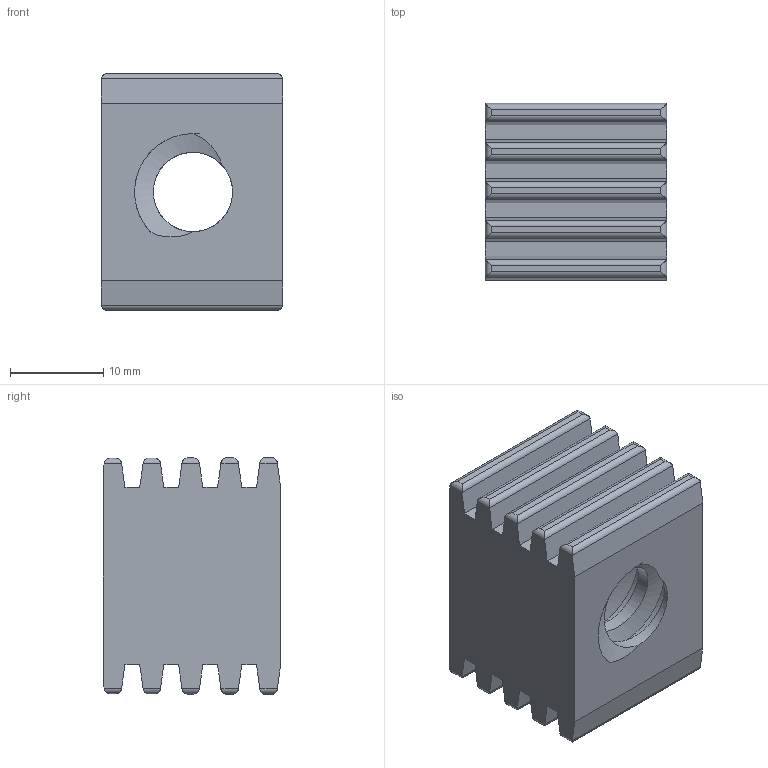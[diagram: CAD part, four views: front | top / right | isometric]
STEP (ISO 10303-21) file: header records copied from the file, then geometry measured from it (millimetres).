
FILE_DESCRIPTION(/* description */ ('STEP AP242 Edition 2','CAx-IF Rec.Pracs.---Representation and Presentation of Product Manufacturing Information (PMI)---4.0---2014-10-13','CAx-IF Rec.Pracs.---3D Tessellated Geometry---0.4---2014-09-14','2;1','CAx-IF Rec.Pracs.---User Defined Attributes---1.5---2016-08-15'),/* implementation_level */ '2;1');
FILE_NAME(/* name */ 'Assembly 1 - Rack',/* time_stamp */ '2026-08-25T12:54:11Z',/* author */ (''),/* organization */ (''),/* preprocessor_version */ 'ST-DEVELOPER v20',/* originating_system */ 'ONSHAPE BY PTC INC, 1.219',/* authorisation */ ' ');
FILE_SCHEMA (('AP242_MANAGED_MODEL_BASED_3D_ENGINEERING_MIM_LF { 1 0 10303 442 3 1 4 }'));
Length unit declared in the file: metre
Products named in the file (1): Rack
Bounding box: 19.4 x 19 x 25.34 mm (x, y, z)
Volume: 6586.7 mm3; surface area: 4249.7 mm2
Topology: 1 solids, 1 shells, 86 faces, 252 edges, 168 vertices
Faces by surface type: plane 42, cylinder 42, bspline 2
Entity records: 3672 total; most frequent: CARTESIAN_POINT 1301, ORIENTED_EDGE 504, DIRECTION 498, EDGE_CURVE 252, AXIS2_PLACEMENT_3D 169, VERTEX_POINT 168, LINE 160, VECTOR 160
